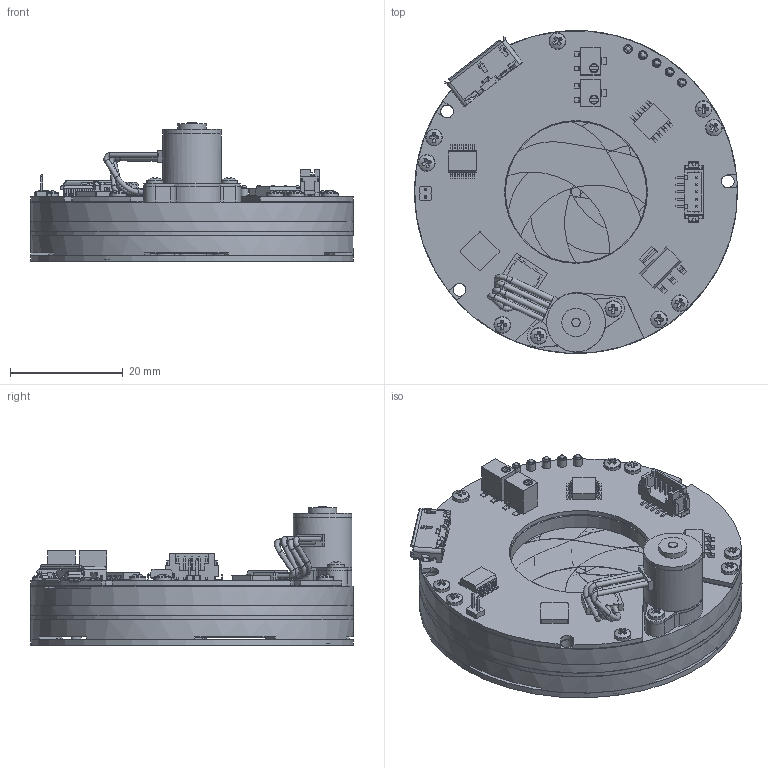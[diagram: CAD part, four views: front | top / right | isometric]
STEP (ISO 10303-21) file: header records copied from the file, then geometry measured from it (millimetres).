
FILE_DESCRIPTION (( 'STEP AP214' ), '1' );
FILE_NAME ('AI25S1T.STEP', '2018-02-12T17:20:44', ( '' ), ( '' ), 'SwSTEP 2.0', 'SolidWorks 2017', '' );
FILE_SCHEMA (( 'AUTOMOTIVE_DESIGN' ));
Length unit declared in the file: inch
Products named in the file (1): AI25S1T
Bounding box: 57.15 x 57.15 x 24.58 mm (x, y, z)
Volume: 18033.8 mm3; surface area: 42353.2 mm2
Topology: 72 solids, 72 shells, 2821 faces, 7359 edges, 4760 vertices
Faces by surface type: plane 1707, cylinder 904, cone 142, torus 44, sphere 15, bspline 9
Full cylindrical faces by diameter (mm): 0.406 x2, 0.61 x2, 0.787 x10, 0.9 x9, 0.92 x1, 1.016 x14, 1.067 x5, 1.1 x1, 1.12 x1, 1.191 x16, 1.27 x5, 1.295 x5, 1.473 x5, 1.5 x2, 1.511 x2, 1.524 x53, 1.575 x5, 1.626 x2, 1.778 x35, 1.956 x5, 2.032 x5, 2.108 x5, 2.2 x2, 2.286 x18, 2.413 x6, 2.515 x3, 2.946 x10, 3.099 x3, 4.763 x1, 5 x2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
Entity records: 122796 total; most frequent: CARTESIAN_POINT 16270, DIRECTION 14384, ORIENTED_EDGE 13604, EDGE_CURVE 6802, AXIS2_PLACEMENT_3D 4913, VERTEX_POINT 4660, VECTOR 4558, LINE 4558
